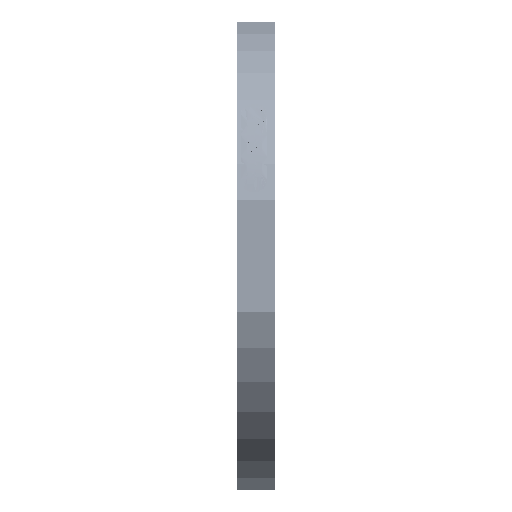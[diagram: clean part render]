
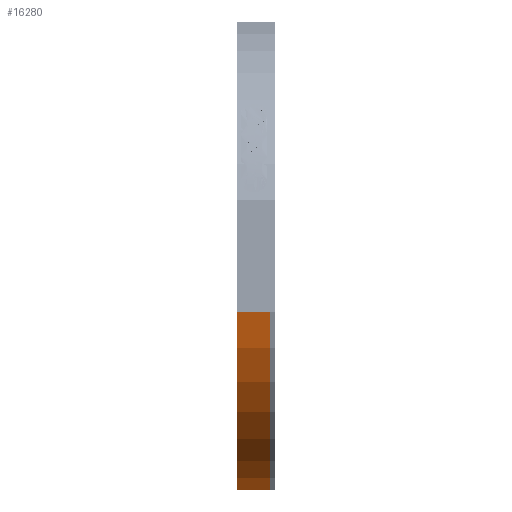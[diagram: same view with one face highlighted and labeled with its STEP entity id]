
A CAD part, left-side view. The second image highlights one B-rep face of the part: STEP entity #16280.
In plain terms, the highlighted cylindrical face has radius 91.694 mm (diameter 183.388 mm), a partial arc.
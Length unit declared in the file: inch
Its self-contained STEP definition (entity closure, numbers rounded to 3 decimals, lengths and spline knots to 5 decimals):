
#440 = DIRECTION ( 'NONE',  ( 0., 0., -1. ) ) ;
#1255 = CIRCLE ( 'NONE', #15032, 3.61 ) ;
#3586 = CARTESIAN_POINT ( 'NONE',  ( 0., 0., -0.1261 ) ) ;
#4408 = CARTESIAN_POINT ( 'NONE',  ( -0.8438, 3.51, -0.61123 ) ) ;
#6420 = EDGE_CURVE ( 'NONE', #36956, #13741, #1255, .T. ) ;
#6894 = CARTESIAN_POINT ( 'NONE',  ( -3.51, 0.8438, -0.1261 ) ) ;
#11353 = ORIENTED_EDGE ( 'NONE', *, *, #34179, .F. ) ;
#13741 = VERTEX_POINT ( 'NONE', #20832 ) ;
#15032 = AXIS2_PLACEMENT_3D ( 'NONE', #17400, #47092, #69888 ) ;
#16115 = VERTEX_POINT ( 'NONE', #29816 ) ;
#16280 = ADVANCED_FACE ( 'NONE', ( #63008 ), #61163, .T. ) ;
#17400 = CARTESIAN_POINT ( 'NONE',  ( 0., 0., -0.61123 ) ) ;
#18747 = EDGE_LOOP ( 'NONE', ( #11353, #36408, #62797, #46376 ) ) ;
#20832 = CARTESIAN_POINT ( 'NONE',  ( -3.51, 0.8438, -0.61123 ) ) ;
#28150 = LINE ( 'NONE', #35160, #53314 ) ;
#29816 = CARTESIAN_POINT ( 'NONE',  ( -0.8438, 3.51, -0.1261 ) ) ;
#33046 = DIRECTION ( 'NONE',  ( 1., 0., 0. ) ) ;
#34179 = EDGE_CURVE ( 'NONE', #16115, #49254, #51729, .T. ) ;
#34936 = CARTESIAN_POINT ( 'NONE',  ( -0.8438, 3.51, -0.00194 ) ) ;
#35160 = CARTESIAN_POINT ( 'NONE',  ( -3.51, 0.8438, -0.00194 ) ) ;
#36408 = ORIENTED_EDGE ( 'NONE', *, *, #58803, .T. ) ;
#36529 = EDGE_CURVE ( 'NONE', #13741, #49254, #28150, .T. ) ;
#36956 = VERTEX_POINT ( 'NONE', #4408 ) ;
#37825 = DIRECTION ( 'NONE',  ( 0., 0., 1. ) ) ;
#45430 = DIRECTION ( 'NONE',  ( 1., 0., 0. ) ) ;
#46376 = ORIENTED_EDGE ( 'NONE', *, *, #36529, .T. ) ;
#47092 = DIRECTION ( 'NONE',  ( 0., 0., 1. ) ) ;
#49254 = VERTEX_POINT ( 'NONE', #6894 ) ;
#51437 = DIRECTION ( 'NONE',  ( 0., 0., 1. ) ) ;
#51729 = CIRCLE ( 'NONE', #54209, 3.61 ) ;
#53314 = VECTOR ( 'NONE', #63295, 39.37008 ) ;
#54209 = AXIS2_PLACEMENT_3D ( 'NONE', #3586, #37825, #33046 ) ;
#56942 = LINE ( 'NONE', #34936, #61407 ) ;
#58795 = AXIS2_PLACEMENT_3D ( 'NONE', #67714, #51437, #45430 ) ;
#58803 = EDGE_CURVE ( 'NONE', #16115, #36956, #56942, .T. ) ;
#61163 = CYLINDRICAL_SURFACE ( 'NONE', #58795, 3.61 ) ;
#61407 = VECTOR ( 'NONE', #440, 39.37008 ) ;
#62797 = ORIENTED_EDGE ( 'NONE', *, *, #6420, .T. ) ;
#63008 = FACE_OUTER_BOUND ( 'NONE', #18747, .T. ) ;
#63295 = DIRECTION ( 'NONE',  ( 0., 0., 1. ) ) ;
#67714 = CARTESIAN_POINT ( 'NONE',  ( 0., 0., -0.00194 ) ) ;
#69888 = DIRECTION ( 'NONE',  ( 1., 0., 0. ) ) ;
